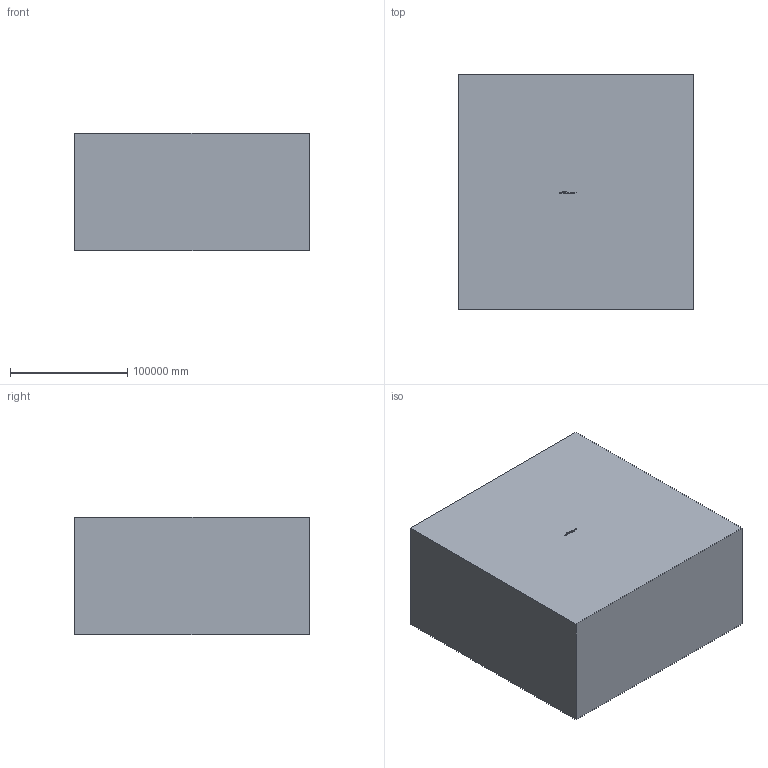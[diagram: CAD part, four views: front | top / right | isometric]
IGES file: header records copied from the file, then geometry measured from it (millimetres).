
Start section: Data from Parasolid IGES Translator,  Copyright (c) 2006 UGS Corp. All R ights Reserved.
Global section: file name: gen_fighter_v3.igs; native system:  By UGS Corp.; preprocessor: XPlus GENERIC/IGES 3.0; author: Noname; organization: Noname; date: 20100318.114836; units: metre
Bounding box: 200000 x 200000 x 100000.46 mm (x, y, z)
Surface area: 160057056931.4 mm2 (no closed solid volume)
Topology: 0 solids, 0 shells, 120 faces, 569 edges, 562 vertices
Faces by surface type: bspline 120
